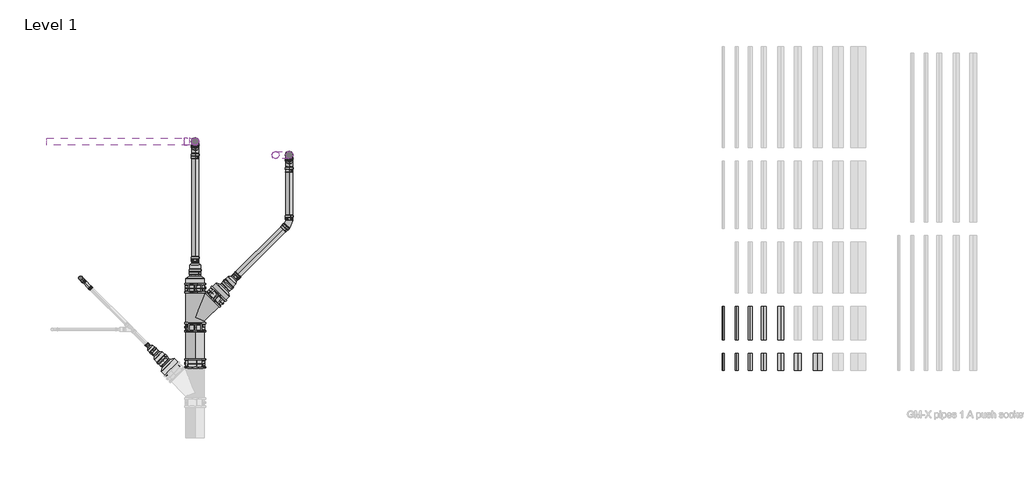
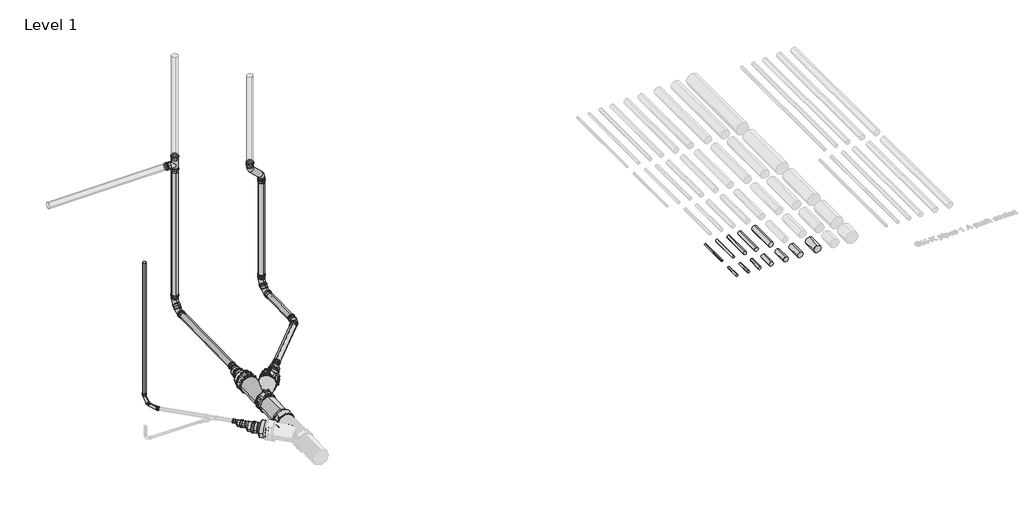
# One storey, part 3 of 8: 52 pipe fittings, 22 pipe segments, 1 valve.
"""IFC4 building model written with IfcOpenShell, lengths in millimetres."""

from ifc_helpers import new_model, si_unit, point, frame, frame_2d, origin, place, context, project, spatial, circle_curve, trimmed, segment, composite_curve, outline, extrude, transform, mapped, element, save
from ifc_brep_helpers import plane_surface, cylinder_surface, advanced_brep
from components import std_19c47b64, std_727ca654, std_c7778bcf, std_14a86d40, std_512bb775, std_f0aeaa4e, std_dbb25919, std_nested_5e4445c4, std_nested_c9cabba8, std_nested_afca93a4, std_nested_2a42391e, std_nested_e5a5243e, std_nested_04e2da1f, std_nested_37ce9ab0, std_nested_de9f702d, std_nested_f38542de, std_nested_473bf3f7, std_nested_352c3d66, std_nested_72f87268, std_nested_de9a7761, std_nested_30a605e0, std_nested_28663e90, std_nested_596bb4c3, std_nested_6f421a5c, dn100_200mm_57fa8b53

model = new_model("IFC4")

# Units and contexts
model_context = context("Model", 3, world=origin())
ifc_project = project(units=[si_unit("LENGTHUNIT", "METRE", prefix="MILLI")], contexts=[model_context])

# Site, building, storey
site = spatial("IfcSite", under=ifc_project)
building = spatial("IfcBuilding", under=site)
storey = spatial("IfcBuildingStorey", under=building, Name="Level 1", Elevation=0.0)

# Pipe fittings
placement = place(None, origin())
std_shape = std_19c47b64(model_context)
element("IfcPipeFitting", 1, ObjectType="PIF_ST_UN_GM-X pipe bend_ACO : std", at=placement, inside=storey, context=model_context, shape_type="MappedRepresentation", body=[
    mapped(std_shape, transform((-5925.6297256, 2178.9495688, 83.5890911), x_axis=(0.7070272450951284, 0.7070272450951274, 0.014998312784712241), y_axis=(-0.7071590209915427, 0.7070272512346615, 0.0062116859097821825), z_axis=(-0.0062123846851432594, -0.01499802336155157, 0.9998682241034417))),
])
std_2_shape = std_727ca654(model_context)
element("IfcPipeFitting", 2, ObjectType="PIF_ST_UN_GM-X double bend_ACO : std", at=placement, inside=storey, context=model_context, shape_type="MappedRepresentation", body=[
    mapped(std_2_shape, transform((-5925.6297256, 3191.3647467, 98.7753188), x_axis=(0.0, 0.0, -1.0), y_axis=(0.0, -1.0, 0.0), z_axis=(-1.0, 0.0, 0.0))),
])
std_3_shape = std_c7778bcf(model_context)
element("IfcPipeFitting", 3, ObjectType="PIF_ST_UN_GM-X double bend_ACO : std", at=placement, inside=storey, context=model_context, shape_type="MappedRepresentation", body=[
    mapped(std_3_shape, transform((-7316.9867536, 3391.3860267, 93.1308537), x_axis=(2.983006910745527e-06, -1.434333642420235e-07, -0.9999999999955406), y_axis=(-4.4745531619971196e-08, -0.9999999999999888, 1.434332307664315e-07), z_axis=(-0.9999999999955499, 4.4745103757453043e-08, -2.9830069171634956e-06))),
])
std_4_shape = std_14a86d40(model_context)
element("IfcPipeFitting", 4, ObjectType="PIF_ST_UN_GM-X double bend_ACO : std", at=placement, inside=storey, context=model_context, shape_type="MappedRepresentation", body=[
    mapped(std_4_shape, transform((-9014.1047845, 1368.6905966, 97.4803435), x_axis=(0.0, 1.0220318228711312e-05, -0.9999999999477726), y_axis=(0.7071067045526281, -0.7071068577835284, -7.2268571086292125e-06), z_axis=(-0.7071068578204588, -0.7071067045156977, -7.226855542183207e-06))),
])
std_5_shape = std_512bb775(model_context)
element("IfcPipeFitting", 5, ObjectType="PIF_ST_UN_GM-X multibranch_ACO : std", at=placement, inside=storey, context=model_context, shape_type="MappedRepresentation", body=[
    mapped(std_5_shape, transform((-7317.0023568, 3391.3677712, 2737.4997144), x_axis=(-2.983006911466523e-06, 1.4343336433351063e-07, 0.9999999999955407), y_axis=(-0.999999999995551, 0.0, -2.9830069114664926e-06), z_axis=(0.0, -0.9999999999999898, 1.434333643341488e-07))),
])
std_6_shape = std_f0aeaa4e(model_context)
element("IfcPipeFitting", 6, ObjectType="PIF_ST_UN_GM-X multireducer_ACO : std", at=placement, inside=storey, context=model_context, shape_type="MappedRepresentation", body=[
    mapped(std_6_shape, transform((-7316.8097007, 1420.948784, 35.071639), x_axis=(0.0, 0.9998875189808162, 0.014998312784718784), y_axis=(0.9999807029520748, -9.31752886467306e-05, 0.006211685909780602), z_axis=(0.006212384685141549, 0.014998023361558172, -0.9998682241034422))),
])
std_7_shape = std_dbb25919(model_context)
element("IfcPipeFitting", 7, ObjectType="PIF_ST_UN_GM-X multibranch_ACO : std", at=placement, inside=storey, context=model_context, shape_type="MappedRepresentation", body=[
    mapped(std_7_shape, transform((-7316.8097007, 788.0199845, 25.577707), x_axis=(0.0, 0.9998875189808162, 0.014998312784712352), y_axis=(0.999980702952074, -9.317528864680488e-05, 0.006211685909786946), z_axis=(0.006212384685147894, 0.014998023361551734, -0.9998682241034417))),
])
std_nested_shape = std_nested_5e4445c4(model_context)
element("IfcPipeFitting", 8, ObjectType="ZZZ_do not use_PIF_ST_UN_GM-X single branch_ACO : std (nested)", at=placement, inside=storey, context=model_context, shape_type="MappedRepresentation", body=[
    mapped(std_nested_shape, transform((-7317.0023568, 3391.3677712, 2737.4997144), x_axis=(-2.983006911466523e-06, 1.4343336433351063e-07, 0.9999999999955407), y_axis=(-0.999999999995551, 0.0, -2.9830069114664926e-06), z_axis=(0.0, -0.9999999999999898, 1.434333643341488e-07))),
])
std_nested_2_shape = std_nested_c9cabba8(model_context)
element("IfcPipeFitting", 9, ObjectType="ZZZ_do not use_PIF_ST_UN_GM-X transition element_ACO : std (nested)", at=placement, inside=storey, context=model_context, shape_type="MappedRepresentation", body=[
    mapped(std_nested_2_shape, transform((-7316.8097007, 1323.9596946, 33.6168027), x_axis=(0.0, 0.9998875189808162, 0.014998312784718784), y_axis=(0.9999807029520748, -9.31752886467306e-05, 0.006211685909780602), z_axis=(0.006212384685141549, 0.014998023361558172, -0.9998682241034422))),
])
element("IfcPipeFitting", 10, ObjectType="ZZZ_do not use_PIF_ST_UN_GM-X transition element_ACO : std (nested)", at=placement, inside=storey, context=model_context, shape_type="MappedRepresentation", body=[
    mapped(std_nested_2_shape, transform((-6937.8430973, 1166.9865878, 33.6168027), x_axis=(0.7070272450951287, 0.7070272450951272, 0.014998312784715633), y_axis=(0.7071590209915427, -0.7070272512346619, -0.006211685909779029), z_axis=(0.0062123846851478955, 0.014998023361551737, -0.9998682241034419))),
])
std_nested_3_shape = std_nested_afca93a4(model_context)
element("IfcPipeFitting", 11, ObjectType="ZZZ_do not use_PIF_ST_UN_GM-X transition element_ACO : std (nested)", at=placement, inside=storey, context=model_context, shape_type="MappedRepresentation", body=[
    mapped(std_nested_3_shape, transform((-7316.8097007, 1520.9375359, 36.5714703), x_axis=(0.0, 0.9998875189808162, 0.014998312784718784), y_axis=(0.9999807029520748, -9.31752886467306e-05, 0.006211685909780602), z_axis=(0.006212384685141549, 0.014998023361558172, -0.9998682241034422))),
])
element("IfcPipeFitting", 12, ObjectType="ZZZ_do not use_PIF_ST_UN_GM-X transition element_ACO : std (nested)", at=placement, inside=storey, context=model_context, shape_type="MappedRepresentation", body=[
    mapped(std_nested_3_shape, transform((-6798.55873, 1306.2709551, 36.5714703), x_axis=(0.7070272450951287, 0.7070272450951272, 0.014998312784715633), y_axis=(0.7071590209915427, -0.7070272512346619, -0.006211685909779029), z_axis=(0.0062123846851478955, 0.014998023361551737, -0.9998682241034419))),
])
std_nested_4_shape = std_nested_2a42391e(model_context)
element("IfcPipeFitting", 13, ObjectType="ZZZ_do not use_PIF_ST_UN_GM-X pipe bend_ACO : std (nested)", at=placement, inside=storey, context=model_context, shape_type="MappedRepresentation", body=[
    mapped(std_nested_4_shape, transform((-5925.6297256, 3191.3647467, 223.7069309), x_axis=(0.0, 0.0, -1.0), y_axis=(0.0, -1.0, 0.0), z_axis=(-1.0, 0.0, 0.0))),
])
std_nested_5_shape = std_nested_e5a5243e(model_context)
element("IfcPipeFitting", 14, ObjectType="ZZZ_do not use_PIF_ST_UN_GM-X pipe bend_ACO : std (nested)", at=placement, inside=storey, context=model_context, shape_type="MappedRepresentation", body=[
    mapped(std_nested_5_shape, transform((-5925.6297256, 3066.447187, 96.9015554), x_axis=(0.0, -0.7017840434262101, -0.7123897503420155), y_axis=(0.0, -0.7123897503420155, 0.7017840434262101), z_axis=(-1.0, 0.0, 0.0))),
])
std_nested_6_shape = std_nested_04e2da1f(model_context)
element("IfcPipeFitting", 15, ObjectType="ZZZ_do not use_PIF_ST_UN_GM-X pipe bend_ACO : std (nested)", at=placement, inside=storey, context=model_context, shape_type="MappedRepresentation", body=[
    mapped(std_nested_6_shape, transform((-7316.9871263, 3391.3860447, 218.0624571), x_axis=(2.983006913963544e-06, -1.4343336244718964e-07, -0.9999999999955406), y_axis=(-4.474553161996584e-08, -0.9999999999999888, 1.434332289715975e-07), z_axis=(-0.9999999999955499, 4.474510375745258e-08, -2.9830069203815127e-06))),
])
std_nested_7_shape = std_nested_37ce9ab0(model_context)
element("IfcPipeFitting", 16, ObjectType="ZZZ_do not use_PIF_ST_UN_GM-X pipe bend_ACO : std (nested)", at=placement, inside=storey, context=model_context, shape_type="MappedRepresentation", body=[
    mapped(std_nested_7_shape, transform((-7316.9867536, 3266.4684758, 91.2570905), x_axis=(2.093662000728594e-06, -0.7017840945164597, -0.7123897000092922), y_axis=(-2.125302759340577e-06, -0.7123897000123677, 0.7017840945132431), z_axis=(-0.9999999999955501, 4.4745103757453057e-08, -2.9830069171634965e-06))),
])
std_nested_8_shape = std_nested_de9f702d(model_context)
element("IfcPipeFitting", 17, ObjectType="ZZZ_do not use_PIF_ST_UN_GM-X pipe bend_ACO : std (nested)", at=placement, inside=storey, context=model_context, shape_type="MappedRepresentation", body=[
    mapped(std_nested_8_shape, transform((-9014.1047845, 1368.6893054, 223.8161313), x_axis=(0.0, 1.0220318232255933e-05, -0.9999999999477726), y_axis=(0.7071067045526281, -0.7071068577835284, -7.2268571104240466e-06), z_axis=(-0.7071068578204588, -0.7071067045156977, -7.2268555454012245e-06))),
])
std_nested_9_shape = std_nested_f38542de(model_context)
element("IfcPipeFitting", 18, ObjectType="ZZZ_do not use_PIF_ST_UN_GM-X pipe bend_ACO : std (nested)", at=placement, inside=storey, context=model_context, shape_type="MappedRepresentation", body=[
    mapped(std_nested_9_shape, transform((-8924.7819405, 1279.3677525, 95.5855198), x_axis=(0.4962380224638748, -0.4962308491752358, -0.7123922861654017), y_axis=(0.5037337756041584, -0.5037410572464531, 0.701781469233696), z_axis=(-0.7071068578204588, -0.7071067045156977, -7.226855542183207e-06))),
])
std_nested_10_shape = std_nested_473bf3f7(model_context)
element("IfcPipeFitting", 19, ObjectType="ZZZ_do not use_PIF_ST_UN_GM-X seal non transitional_ACO : std (nested)", at=placement, inside=storey, context=model_context, shape_type="MappedRepresentation", body=[
    mapped(std_nested_10_shape, transform((-5925.6297256, 3191.3647467, 347.7069309), x_axis=(0.0, 0.0, 1.0), y_axis=(0.0, 1.0, 0.0), z_axis=(-1.0, 0.0, 0.0))),
])
element("IfcPipeFitting", 20, ObjectType="ZZZ_do not use_PIF_ST_UN_GM-X seal non transitional_ACO : std (nested)", at=placement, inside=storey, context=model_context, shape_type="MappedRepresentation", body=[
    mapped(std_nested_10_shape, transform((-5925.6297256, 3153.4684084, 185.2378844), x_axis=(0.0, 0.7017840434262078, 0.7123897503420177), y_axis=(0.0, 0.7123897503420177, -0.7017840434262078), z_axis=(-1.0, 0.0, 0.0))),
])
element("IfcPipeFitting", 21, ObjectType="ZZZ_do not use_PIF_ST_UN_GM-X seal non transitional_ACO : std (nested)", at=placement, inside=storey, context=model_context, shape_type="MappedRepresentation", body=[
    mapped(std_nested_10_shape, transform((-7477.0023568, 3391.3677712, 2737.4997144), x_axis=(-1.0000000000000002, 0.0, 0.0), y_axis=(0.0, -1.4343336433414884e-07, -0.9999999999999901), z_axis=(0.0, -0.99999999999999, 1.4343336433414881e-07))),
])
element("IfcPipeFitting", 22, ObjectType="ZZZ_do not use_PIF_ST_UN_GM-X seal non transitional_ACO : std (nested)", at=placement, inside=storey, context=model_context, shape_type="MappedRepresentation", body=[
    mapped(std_nested_10_shape, transform((-7317.0028341, 3391.3677941, 2897.4997144), x_axis=(-2.983006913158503e-06, 1.4343336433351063e-07, 0.9999999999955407), y_axis=(-0.999999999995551, 0.0, -2.9830069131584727e-06), z_axis=(0.0, -0.9999999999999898, 1.434333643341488e-07))),
])
element("IfcPipeFitting", 23, ObjectType="ZZZ_do not use_PIF_ST_UN_GM-X seal non transitional_ACO : std (nested)", at=placement, inside=storey, context=model_context, shape_type="MappedRepresentation", body=[
    mapped(std_nested_10_shape, transform((-6125.6297256, 3191.3647467, 2481.5163684), x_axis=(0.0, 0.0, 1.0), y_axis=(-1.0000000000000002, 0.0, 0.0), z_axis=(0.0, -1.0000000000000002, 0.0))),
])
element("IfcPipeFitting", 24, ObjectType="ZZZ_do not use_PIF_ST_UN_GM-X seal non transitional_ACO : std (nested)", at=placement, inside=storey, context=model_context, shape_type="MappedRepresentation", body=[
    mapped(std_nested_10_shape, transform((-6680.662233, 1423.9170614, 67.5724329), x_axis=(0.7070272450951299, 0.7070272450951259, 0.014998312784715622), y_axis=(0.7071590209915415, -0.7070272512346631, -0.00621168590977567), z_axis=(0.0062123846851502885, 0.014998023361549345, -0.9998682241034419))),
])
element("IfcPipeFitting", 25, ObjectType="ZZZ_do not use_PIF_ST_UN_GM-X seal non transitional_ACO : std (nested)", at=placement, inside=storey, context=model_context, shape_type="MappedRepresentation", body=[
    mapped(std_nested_10_shape, transform((-7952.9571683, 307.7538385, 50.8299846), x_axis=(-0.7070272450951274, 0.7070272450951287, 0.014998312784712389), y_axis=(-0.7071590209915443, -0.7070272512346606, -0.006211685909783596), z_axis=(0.0062123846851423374, -0.014998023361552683, 0.9998682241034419))),
])
element("IfcPipeFitting", 26, ObjectType="ZZZ_do not use_PIF_ST_UN_GM-X seal non transitional_ACO : std (nested)", at=placement, inside=storey, context=model_context, shape_type="MappedRepresentation", body=[
    mapped(std_nested_10_shape, transform((-7316.9867536, 1687.4913079, 67.5724329), x_axis=(0.0, 0.9998875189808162, 0.014998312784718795), y_axis=(0.9999807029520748, -9.317528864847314e-05, 0.006211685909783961), z_axis=(0.006212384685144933, 0.014998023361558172, -0.9998682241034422))),
])
element("IfcPipeFitting", 27, ObjectType="ZZZ_do not use_PIF_ST_UN_GM-X seal non transitional_ACO : std (nested)", at=placement, inside=storey, context=model_context, shape_type="MappedRepresentation", body=[
    mapped(std_nested_10_shape, transform((-7316.9874962, 3391.3860624, 342.0624571), x_axis=(-2.983006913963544e-06, 1.4343335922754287e-07, 0.9999999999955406), y_axis=(4.474553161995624e-08, 0.9999999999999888, -1.4343322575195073e-07), z_axis=(-0.9999999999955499, 4.474510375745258e-08, -2.9830069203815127e-06))),
])
element("IfcPipeFitting", 28, ObjectType="ZZZ_do not use_PIF_ST_UN_GM-X seal non transitional_ACO : std (nested)", at=placement, inside=storey, context=model_context, shape_type="MappedRepresentation", body=[
    mapped(std_nested_10_shape, transform((-7316.9870132, 3353.4897036, 179.5934133), x_axis=(-2.093662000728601e-06, 0.7017840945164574, 0.7123897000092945), y_axis=(2.12530275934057e-06, 0.7123897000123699, -0.7017840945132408), z_axis=(-0.9999999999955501, 4.4745103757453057e-08, -2.9830069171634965e-06))),
])
element("IfcPipeFitting", 29, ObjectType="ZZZ_do not use_PIF_ST_UN_GM-X seal non transitional_ACO : std (nested)", at=placement, inside=storey, context=model_context, shape_type="MappedRepresentation", body=[
    mapped(std_nested_10_shape, transform((-5925.6297256, 2302.9356211, 85.4488819), x_axis=(0.0, 0.9998875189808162, 0.014998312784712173), y_axis=(-0.999980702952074, 9.317528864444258e-05, -0.006211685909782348), z_axis=(-0.0062123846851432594, -0.01499802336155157, 0.9998682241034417))),
])
element("IfcPipeFitting", 30, ObjectType="ZZZ_do not use_PIF_ST_UN_GM-X seal non transitional_ACO : std (nested)", at=placement, inside=storey, context=model_context, shape_type="MappedRepresentation", body=[
    mapped(std_nested_10_shape, transform((-5963.8091969, 2140.7700976, 82.7791822), x_axis=(0.7070272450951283, 0.7070272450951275, 0.014998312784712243), y_axis=(-0.7071590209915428, 0.7070272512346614, 0.006211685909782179), z_axis=(-0.0062123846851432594, -0.01499802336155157, 0.9998682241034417))),
])
element("IfcPipeFitting", 31, ObjectType="ZZZ_do not use_PIF_ST_UN_GM-X seal non transitional_ACO : std (nested)", at=placement, inside=storey, context=model_context, shape_type="MappedRepresentation", body=[
    mapped(std_nested_10_shape, transform((-5925.6297256, 3012.453261, 96.0916465), x_axis=(0.0, 0.9998875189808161, 0.01499831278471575), y_axis=(0.0, 0.01499831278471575, -0.9998875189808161), z_axis=(-1.0, 0.0, 0.0))),
])
element("IfcPipeFitting", 32, ObjectType="ZZZ_do not use_PIF_ST_UN_GM-X seal non transitional_ACO : std (nested)", at=placement, inside=storey, context=model_context, shape_type="MappedRepresentation", body=[
    mapped(std_nested_10_shape, transform((-7316.9867536, 3212.4745498, 90.4471816), x_axis=(0.0, 0.9998875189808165, 0.014998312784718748), y_axis=(2.98334248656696e-06, 0.014998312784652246, -0.9998875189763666), z_axis=(-0.9999999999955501, 4.4745103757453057e-08, -2.9830069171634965e-06))),
])
element("IfcPipeFitting", 33, ObjectType="ZZZ_do not use_PIF_ST_UN_GM-X seal non transitional_ACO : std (nested)", at=placement, inside=storey, context=model_context, shape_type="MappedRepresentation", body=[
    mapped(std_nested_10_shape, transform((-7317.002148, 3391.3677611, 2667.4997144), x_axis=(-2.983006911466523e-06, 1.4343336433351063e-07, 0.9999999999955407), y_axis=(0.999999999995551, 0.0, 2.9830069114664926e-06), z_axis=(0.0, 0.9999999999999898, -1.434333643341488e-07))),
])
element("IfcPipeFitting", 34, ObjectType="ZZZ_do not use_PIF_ST_UN_GM-X seal non transitional_ACO : std (nested)", at=placement, inside=storey, context=model_context, shape_type="MappedRepresentation", body=[
    mapped(std_nested_10_shape, transform((-5925.6297256, 3191.3647467, 2111.5163684), x_axis=(0.0, 0.0, 1.0), y_axis=(-1.0000000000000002, 0.0, 0.0), z_axis=(0.0, -1.0000000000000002, 0.0))),
])
std_nested_11_shape = std_nested_352c3d66(model_context)
element("IfcPipeFitting", 35, ObjectType="ZZZ_do not use_PIF_ST_UN_GM-X seal non transitional_ACO : std (nested)", at=placement, inside=storey, context=model_context, shape_type="MappedRepresentation", body=[
    mapped(std_nested_11_shape, transform((-9014.1047845, 1368.6881403, 337.8161313), x_axis=(0.0, -1.0220318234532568e-05, 0.9999999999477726), y_axis=(-0.7071067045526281, 0.7071068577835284, 7.226857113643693e-06), z_axis=(-0.7071068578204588, -0.7071067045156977, -7.2268555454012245e-06))),
])
element("IfcPipeFitting", 36, ObjectType="ZZZ_do not use_PIF_ST_UN_GM-X seal non transitional_ACO : std (nested)", at=placement, inside=storey, context=model_context, shape_type="MappedRepresentation", body=[
    mapped(std_nested_11_shape, transform((-8981.3530751, 1335.9380693, 176.7982404), x_axis=(-0.49623802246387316, 0.4962308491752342, 0.712392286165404), y_axis=(-0.50373377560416, 0.5037410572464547, -0.7017814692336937), z_axis=(-0.7071068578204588, -0.7071067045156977, -7.226855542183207e-06))),
])
element("IfcPipeFitting", 37, ObjectType="ZZZ_do not use_PIF_ST_UN_GM-X seal non transitional_ACO : std (nested)", at=placement, inside=storey, context=model_context, shape_type="MappedRepresentation", body=[
    mapped(std_nested_11_shape, transform((-8878.1181423, 1232.7039543, 94.5956312), x_axis=(-0.7070272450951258, 0.70702724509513, 0.014998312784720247), y_axis=(-0.010600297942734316, 0.010610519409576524, -0.9998875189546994), z_axis=(-0.7071068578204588, -0.7071067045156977, -7.226855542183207e-06))),
])
std_nested_12_shape = std_nested_72f87268(model_context)
element("IfcPipeFitting", 38, ObjectType="ZZZ_do not use_PIF_ST_UN_GM-X seal non transitional_ACO : std (nested)", at=placement, inside=storey, context=model_context, shape_type="MappedRepresentation", body=[
    mapped(std_nested_12_shape, transform((-6810.5781932, 1294.251492, 36.316499), x_axis=(0.7070272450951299, 0.7070272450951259, 0.014998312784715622), y_axis=(0.7071590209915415, -0.7070272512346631, -0.006211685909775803), z_axis=(0.006212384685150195, 0.014998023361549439, -0.9998682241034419))),
])
element("IfcPipeFitting", 39, ObjectType="ZZZ_do not use_PIF_ST_UN_GM-X seal non transitional_ACO : std (nested)", at=placement, inside=storey, context=model_context, shape_type="MappedRepresentation", body=[
    mapped(std_nested_12_shape, transform((-7823.0412081, 178.0882691, 19.5740506), x_axis=(-0.7070272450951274, 0.7070272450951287, 0.014998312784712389), y_axis=(-0.7071590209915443, -0.7070272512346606, -0.006211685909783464), z_axis=(0.006212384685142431, -0.01499802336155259, 0.9998682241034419))),
])
element("IfcPipeFitting", 40, ObjectType="ZZZ_do not use_PIF_ST_UN_GM-X seal non transitional_ACO : std (nested)", at=placement, inside=storey, context=model_context, shape_type="MappedRepresentation", body=[
    mapped(std_nested_12_shape, transform((-7316.8097007, 1503.9394481, 36.316499), x_axis=(0.0, 0.9998875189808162, 0.014998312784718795), y_axis=(0.9999807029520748, -9.317528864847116e-05, 0.006211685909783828), z_axis=(0.006212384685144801, 0.014998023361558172, -0.9998682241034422))),
])
std_nested_13_shape = std_nested_de9a7761(model_context)
element("IfcPipeFitting", 41, ObjectType="ZZZ_do not use_PIF_ST_UN_GM-X single branch socket free_ACO : std (nested)", at=placement, inside=storey, context=model_context, shape_type="MappedRepresentation", body=[
    mapped(std_nested_13_shape, transform((-7316.8097007, 788.0199845, 25.577707), x_axis=(0.0, 0.9998875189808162, 0.014998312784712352), y_axis=(0.999980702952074, -9.317528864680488e-05, 0.006211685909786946), z_axis=(0.006212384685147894, 0.014998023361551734, -0.9998682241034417))),
])
element("IfcPipeFitting", 42, ObjectType="ZZZ_do not use_PIF_ST_UN_GM-X transition element_ACO : std (nested)", at=placement, inside=storey, context=model_context, shape_type="MappedRepresentation", body=[
    mapped(std_nested_2_shape, transform((-7695.776304, 50.8233649, 16.8743543), x_axis=(-0.7070272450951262, 0.7070272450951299, 0.014998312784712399), y_axis=(-0.7071590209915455, -0.7070272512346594, -0.006211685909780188), z_axis=(0.0062123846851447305, -0.01499802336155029, 0.9998682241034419))),
])
std_nested_14_shape = std_nested_30a605e0(model_context)
element("IfcPipeFitting", 43, ObjectType="ZZZ_do not use_PIF_ST_UN_GM-X transition element_ACO : std (nested)", at=placement, inside=storey, context=model_context, shape_type="MappedRepresentation", body=[
    mapped(std_nested_14_shape, transform((-7835.0606713, 190.1077322, 19.829022), x_axis=(-0.7070272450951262, 0.7070272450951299, 0.014998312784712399), y_axis=(-0.7071590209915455, -0.7070272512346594, -0.006211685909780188), z_axis=(0.0062123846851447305, -0.01499802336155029, 0.9998682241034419))),
])
std_nested_15_shape = std_nested_28663e90(model_context)
element("IfcPipeFitting", 44, ObjectType="ZZZ_do not use_PIF_ST_UN_GM-X transition element_ACO : std (nested)", at=placement, inside=storey, context=model_context, shape_type="MappedRepresentation", body=[
    mapped(std_nested_15_shape, transform((-7958.9668999, 313.7635701, 50.9574702), x_axis=(-0.7070272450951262, 0.7070272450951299, 0.014998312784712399), y_axis=(-0.7071590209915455, -0.7070272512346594, -0.006211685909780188), z_axis=(0.0062123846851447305, -0.01499802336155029, 0.9998682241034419))),
])
std_nested_16_shape = std_nested_596bb4c3(model_context)
element("IfcPipeFitting", 45, ObjectType="ZZZ_do not use_PIF_ST_UN_GM-X rapid clamp_ACO : std (nested)", at=placement, inside=storey, context=model_context, shape_type="MappedRepresentation", body=[
    mapped(std_nested_16_shape, transform((-7316.8097007, 640.0366317, 23.3579567), x_axis=(0.0, -0.9998875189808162, -0.014998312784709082), y_axis=(-0.006212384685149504, -0.014998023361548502, 0.9998682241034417), z_axis=(-0.999980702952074, 9.317528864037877e-05, -0.006211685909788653))),
])
element("IfcPipeFitting", 46, ObjectType="ZZZ_do not use_PIF_ST_UN_GM-X rapid clamp_ACO : std (nested)", at=placement, inside=storey, context=model_context, shape_type="MappedRepresentation", body=[
    mapped(std_nested_16_shape, transform((-7316.8097007, 1220.9712802, 32.0719765), x_axis=(0.0, 0.9998875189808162, 0.014998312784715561), y_axis=(-0.006212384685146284, -0.014998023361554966, 0.9998682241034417), z_axis=(0.999980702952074, -9.317528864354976e-05, 0.006211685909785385))),
])
element("IfcPipeFitting", 47, ObjectType="ZZZ_do not use_PIF_ST_UN_GM-X rapid clamp_ACO : std (nested)", at=placement, inside=storey, context=model_context, shape_type="MappedRepresentation", body=[
    mapped(std_nested_16_shape, transform((-7316.8097007, 104.8080573, 15.3295281), x_axis=(0.0, 0.9998875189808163, 0.014998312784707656), y_axis=(-0.006212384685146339, 0.014998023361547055, -0.9998682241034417), z_axis=(-0.9999807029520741, -9.31752886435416e-05, 0.006211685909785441))),
])
element("IfcPipeFitting", 48, ObjectType="ZZZ_do not use_PIF_ST_UN_GM-X rapid clamp_ACO : std (nested)", at=placement, inside=storey, context=model_context, shape_type="MappedRepresentation", body=[
    mapped(std_nested_16_shape, transform((-7010.6669035, 1094.1627816, 32.0719765), x_axis=(0.7070272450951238, 0.707027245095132, 0.014998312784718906), y_axis=(-0.00621238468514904, -0.014998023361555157, 0.9998682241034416), z_axis=(0.7071590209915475, -0.7070272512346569, -0.0062116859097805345))),
])
std_nested_17_shape = std_nested_6f421a5c(model_context)
element("IfcPipeFitting", 49, ObjectType="ZZZ_do not use_PIF_ST_UN_GM-X universal claw_ACO : std (nested)", at=placement, inside=storey, context=model_context, shape_type="MappedRepresentation", body=[
    mapped(std_nested_17_shape, transform((-7316.8097007, 640.0366317, 23.3579567), x_axis=(0.0, -0.9998875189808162, -0.014998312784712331), y_axis=(0.999980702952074, -9.317528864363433e-05, 0.006211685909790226), z_axis=(-0.006212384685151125, -0.014998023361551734, 0.9998682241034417))),
])
element("IfcPipeFitting", 50, ObjectType="ZZZ_do not use_PIF_ST_UN_GM-X universal claw_ACO : std (nested)", at=placement, inside=storey, context=model_context, shape_type="MappedRepresentation", body=[
    mapped(std_nested_17_shape, transform((-7316.8097007, 1220.9712802, 32.0719765), x_axis=(0.0, 0.9998875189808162, 0.014998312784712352), y_axis=(-0.999980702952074, 9.31752886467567e-05, -0.006211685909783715), z_axis=(-0.006212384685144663, -0.014998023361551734, 0.9998682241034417))),
])
element("IfcPipeFitting", 51, ObjectType="ZZZ_do not use_PIF_ST_UN_GM-X universal claw_ACO : std (nested)", at=placement, inside=storey, context=model_context, shape_type="MappedRepresentation", body=[
    mapped(std_nested_17_shape, transform((-7316.8097007, 104.8080573, 15.3295281), x_axis=(0.0, 0.9998875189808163, 0.014998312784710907), y_axis=(0.9999807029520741, 9.317528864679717e-05, -0.006211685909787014), z_axis=(-0.00621238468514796, 0.014998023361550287, -0.9998682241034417))),
])
element("IfcPipeFitting", 52, ObjectType="ZZZ_do not use_PIF_ST_UN_GM-X universal claw_ACO : std (nested)", at=placement, inside=storey, context=model_context, shape_type="MappedRepresentation", body=[
    mapped(std_nested_17_shape, transform((-7010.6669035, 1094.1627816, 32.0719765), x_axis=(0.7070272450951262, 0.7070272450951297, 0.014998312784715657), y_axis=(-0.7071590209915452, 0.7070272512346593, 0.006211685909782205), z_axis=(-0.006212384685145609, -0.014998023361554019, 0.9998682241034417))),
])

# Pipe segments
element("IfcPipeSegment", 53, ObjectType="GM-X pipe complex", at=placement, inside=storey, context=model_context, shape_type="SweptSolid", body=[
    extrude(outline(composite_curve([segment(trimmed(circle_curve(frame_2d((-6125.6297256, 3191.3647467)), 51.5), [point((-6177.1297256, 3191.3647467))], [point((-6125.6297256, 3242.8647467))], False, "CARTESIAN"), True, "CONTINUOUS"), segment(trimmed(circle_curve(frame_2d((-6125.6297256, 3191.3647467)), 51.5), [point((-6125.6297256, 3242.8647467))], [point((-6074.1297256, 3191.3647467))], False, "CARTESIAN"), True, "CONTINUOUS"), segment(trimmed(circle_curve(frame_2d((-6125.6297256, 3191.3647467)), 51.5), [point((-6074.1297256, 3191.3647467))], [point((-6125.6297256, 3139.8647467))], False, "CARTESIAN"), True, "CONTINUOUS"), segment(trimmed(circle_curve(frame_2d((-6125.6297256, 3191.3647467)), 51.5), [point((-6125.6297256, 3139.8647467))], [point((-6177.1297256, 3191.3647467))], False, "CARTESIAN"), True, "CONTINUOUS")], self_intersect=False)), frame((0.0, 0.0, 2411.5163684), z_axis=(0.0, 0.0, 1.0), x_axis=(1.0, 0.0, 0.0)), (0.0, 0.0, 1.0), 1647.2589504),
])
element("IfcPipeSegment", 54, ObjectType="GM-X pipe complex", at=placement, inside=storey, context=model_context, shape_type="SweptSolid", body=[
    extrude(outline(composite_curve([segment(trimmed(circle_curve(frame_2d((0.0, -51.5)), 51.5), [point((-51.5, -51.5))], [point((0.0, 0.0))], False, "CARTESIAN"), True, "CONTINUOUS"), segment(trimmed(circle_curve(frame_2d((0.0, -51.5)), 51.5), [point((0.0, 0.0))], [point((51.5, -51.5))], False, "CARTESIAN"), True, "CONTINUOUS"), segment(trimmed(circle_curve(frame_2d((0.0, -51.5)), 51.5), [point((51.5, -51.5))], [point((0.0, -102.9999999))], False, "CARTESIAN"), True, "CONTINUOUS"), segment(trimmed(circle_curve(frame_2d((0.0, -51.5)), 51.5), [point((0.0, -102.9999999))], [point((-51.5, -51.5))], False, "CARTESIAN"), True, "CONTINUOUS")], self_intersect=False)), frame((-5925.6297256, 2233.7159079, 32.9047928), z_axis=(0.0, 0.9998875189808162, 0.014998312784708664), x_axis=(1.0, 0.0, 0.0)), (0.0, 0.0, 1.0), 709.5974561),
])
element("IfcPipeSegment", 55, ObjectType="GM-X pipe complex", at=placement, inside=storey, context=model_context, shape_type="SweptSolid", body=[
    extrude(outline(composite_curve([segment(trimmed(circle_curve(frame_2d((0.0, -51.5)), 51.5), [point((-51.4942085, -50.7276737))], [point((0.7723263, -0.0057915))], False, "CARTESIAN"), True, "CONTINUOUS"), segment(trimmed(circle_curve(frame_2d((0.0, -51.5)), 51.5), [point((0.7723263, -0.0057915))], [point((51.4942085, -52.2723262))], False, "CARTESIAN"), True, "CONTINUOUS"), segment(trimmed(circle_curve(frame_2d((0.0, -51.5)), 51.5), [point((51.4942085, -52.2723262))], [point((-0.7723262, -102.9942086))], False, "CARTESIAN"), True, "CONTINUOUS"), segment(trimmed(circle_curve(frame_2d((0.0, -51.5)), 51.5), [point((-0.7723262, -102.9942086))], [point((-51.4942085, -50.7276737))], False, "CARTESIAN"), True, "CONTINUOUS")], self_intersect=False)), frame((-6730.1541402, 1375.5173885, 15.0341346), z_axis=(0.7070272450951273, 0.7070272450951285, 0.014998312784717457), x_axis=(0.7071863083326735, -0.7068682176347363, -0.014994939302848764)), (0.0, 0.0, 1.0), 1013.8973302),
])
element("IfcPipeSegment", 56, ObjectType="GM-X pipe complex", at=placement, inside=storey, context=model_context, shape_type="SweptSolid", body=[
    extrude(outline(composite_curve([segment(trimmed(circle_curve(frame_2d((0.0, -51.5)), 51.5), [point((-51.5, -51.5))], [point((0.0, 0.0))], False, "CARTESIAN"), True, "CONTINUOUS"), segment(trimmed(circle_curve(frame_2d((0.0, -51.5)), 51.5), [point((0.0, 0.0))], [point((51.5, -51.5))], False, "CARTESIAN"), True, "CONTINUOUS"), segment(trimmed(circle_curve(frame_2d((0.0, -51.5)), 51.5), [point((51.5, -51.5))], [point((0.0, -103.0))], False, "CARTESIAN"), True, "CONTINUOUS"), segment(trimmed(circle_curve(frame_2d((0.0, -51.5)), 51.5), [point((0.0, -103.0))], [point((-51.5, -51.5))], False, "CARTESIAN"), True, "CONTINUOUS")], self_intersect=False)), frame((-7316.9867536, 1618.2715947, 15.0283438), z_axis=(0.0, 0.9998875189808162, 0.014998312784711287), x_axis=(1.0, 0.0, 0.0)), (0.0, 0.0, 1.0), 1525.1547929),
])
element("IfcPipeSegment", 57, ObjectType="GM-X pipe complex", at=placement, inside=storey, context=model_context, shape_type="AdvancedBrep", body=[
    advanced_brep(
    [(-8987.6047862, 1368.6635565, 2743.1999976), (-9014.1047862, 1395.1635565, 2743.2002685), (-9040.6047862, 1368.6635565, 2743.1999976), (-9014.1047862, 1342.1635565, 2743.1997268), (-8987.6047845, 1368.6885286, 299.8161313), (-9014.1047845, 1342.1885286, 299.8158605), (-9040.6047845, 1368.6885286, 299.8161313), (-9014.1047845, 1395.1885286, 299.8164021)],
    [
        (0, 1, circle_curve(frame((-9014.1047862, 1368.6635565, 2743.1999976), z_axis=(0.0, -1.022031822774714e-05, 0.9999999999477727), x_axis=(1.0, 0.0, 0.0)), 26.5)),
        (1, 2, circle_curve(frame((-9014.1047862, 1368.6635565, 2743.1999976), z_axis=(0.0, -1.022031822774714e-05, 0.9999999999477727), x_axis=(1.0, 0.0, 0.0)), 26.5)),
        (2, 3, circle_curve(frame((-9014.1047862, 1368.6635565, 2743.1999976), z_axis=(0.0, -1.022031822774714e-05, 0.9999999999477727), x_axis=(1.0, 0.0, 0.0)), 26.5)),
        (3, 0, circle_curve(frame((-9014.1047862, 1368.6635565, 2743.1999976), z_axis=(0.0, -1.022031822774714e-05, 0.9999999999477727), x_axis=(1.0, 0.0, 0.0)), 26.5)),
        (4, 5, circle_curve(frame((-9014.1047862, 1368.6885286, 299.8161313), z_axis=(0.0, 1.022031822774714e-05, -0.9999999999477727), x_axis=(1.0, 0.0, 0.0)), 26.5000017)),
        (5, 6, circle_curve(frame((-9014.1047862, 1368.6885286, 299.8161313), z_axis=(0.0, 1.022031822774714e-05, -0.9999999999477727), x_axis=(1.0, 0.0, 0.0)), 26.5)),
        (6, 7, circle_curve(frame((-9014.1047862, 1368.6885286, 299.8161313), z_axis=(0.0, 1.022031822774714e-05, -0.9999999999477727), x_axis=(1.0, 0.0, 0.0)), 26.4999983)),
        (7, 4, circle_curve(frame((-9014.1047862, 1368.6885286, 299.8161313), z_axis=(0.0, 1.022031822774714e-05, -0.9999999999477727), x_axis=(1.0, 0.0, 0.0)), 26.5)),
        (0, 4),
        (7, 1),
        (6, 2),
        (5, 3),
    ],
    [
        plane_surface(frame((-9014.1047862, 1342.1635565, 2743.1997268), z_axis=(0.0, -1.0220318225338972e-05, 0.9999999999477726), x_axis=(-1.0, 0.0, 0.0))),
        plane_surface(frame((-9014.1047845, 1342.1885286, 299.8158605), z_axis=(0.0, 1.0220318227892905e-05, -0.9999999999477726), x_axis=(-1.0, 0.0, 0.0))),
        cylinder_surface(frame((-9014.1047862, 1368.6635565, 2743.1999976), z_axis=(0.0, -1.022031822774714e-05, 0.9999999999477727), x_axis=(1.0, 0.0, 0.0)), 26.5),
    ],
    [
        (0, [[1, 2, 3, 4]]),
        (1, [[5, 6, 7, 8]]),
        (2, [[-1, 9, -8, 10]]),
        (2, [[-2, -10, -7, 11]]),
        (2, [[-3, -11, -6, 12]]),
        (2, [[-4, -12, -5, -9]]),
    ],
),
])
element("IfcPipeSegment", 58, ObjectType="GM-X pipe complex", at=placement, inside=storey, context=model_context, shape_type="SweptSolid", body=[
    extrude(outline(composite_curve([segment(trimmed(circle_curve(frame_2d((0.0, -136.5000001)), 136.5), [point((-136.5, -136.5000001))], [point((0.0, 0.0))], False, "CARTESIAN"), True, "CONTINUOUS"), segment(trimmed(circle_curve(frame_2d((0.0, -136.5000001)), 136.5), [point((0.0, 0.0))], [point((136.5, -136.5000001))], False, "CARTESIAN"), True, "CONTINUOUS"), segment(trimmed(circle_curve(frame_2d((0.0, -136.5000001)), 136.5), [point((136.5, -136.5000001))], [point((0.0, -273.0))], False, "CARTESIAN"), True, "CONTINUOUS"), segment(trimmed(circle_curve(frame_2d((0.0, -136.5000001)), 136.5), [point((0.0, -273.0))], [point((-136.5, -136.5000001))], False, "CARTESIAN"), True, "CONTINUOUS")], self_intersect=False)), frame((-7316.8097007, 109.8549895, -121.1101233), z_axis=(0.0, 0.9998875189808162, 0.014998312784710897), x_axis=(1.0, 0.0, 0.0)), (0.0, 0.0, 1.0), 529.2887842),
])
element("IfcPipeSegment", 59, ObjectType="GM-X pipe complex", at=placement, inside=storey, context=model_context, shape_type="SweptSolid", body=[
    extrude(outline(composite_curve([segment(trimmed(circle_curve(frame_2d((3391.3677712, 2737.4997144)), 51.5), [point((3442.8677712, 2737.4997144))], [point((3391.3677712, 2685.9997144))], False, "CARTESIAN"), True, "CONTINUOUS"), segment(trimmed(circle_curve(frame_2d((3391.3677712, 2737.4997144)), 51.5), [point((3391.3677712, 2685.9997144))], [point((3339.8677712, 2737.4997144))], False, "CARTESIAN"), True, "CONTINUOUS"), segment(trimmed(circle_curve(frame_2d((3391.3677712, 2737.4997144)), 51.5), [point((3339.8677712, 2737.4997144))], [point((3391.3677712, 2788.9997144))], False, "CARTESIAN"), True, "CONTINUOUS"), segment(trimmed(circle_curve(frame_2d((3391.3677712, 2737.4997144)), 51.5), [point((3391.3677712, 2788.9997144))], [point((3442.8677712, 2737.4997144))], False, "CARTESIAN"), True, "CONTINUOUS")], self_intersect=False)), frame((-9517.0023564, 0.0, 0.0), z_axis=(1.0, 0.0, 0.0), x_axis=(0.0, 1.0, 0.0)), (0.0, 0.0, 1.0), 2109.9999996),
])
element("IfcPipeSegment", 60, ObjectType="GM-X pipe complex", at=placement, inside=storey, context=model_context, shape_type="SweptSolid", body=[
    extrude(outline(composite_curve([segment(trimmed(circle_curve(frame_2d((0.0, 51.5)), 51.5), [point((-51.5, 51.5))], [point((0.0, 103.0))], False, "CARTESIAN"), True, "CONTINUOUS"), segment(trimmed(circle_curve(frame_2d((0.0, 51.5)), 51.5), [point((0.0, 103.0))], [point((51.5, 51.5))], False, "CARTESIAN"), True, "CONTINUOUS"), segment(trimmed(circle_curve(frame_2d((0.0, 51.5)), 51.5), [point((51.5, 51.5))], [point((0.0, 0.0))], False, "CARTESIAN"), True, "CONTINUOUS"), segment(trimmed(circle_curve(frame_2d((0.0, 51.5)), 51.5), [point((0.0, 0.0))], [point((-51.5, 51.5))], False, "CARTESIAN"), True, "CONTINUOUS")], self_intersect=False)), frame((-7317.0026253, 3339.8677841, 2827.4997218), z_axis=(-2.9830069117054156e-06, 1.4343336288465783e-07, 0.9999999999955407), x_axis=(0.9999999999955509, 0.0, 2.9830069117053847e-06)), (0.0, 0.0, 1.0), 1897.1284431),
])
element("IfcPipeSegment", 61, ObjectType="GM-X pipe complex", at=placement, inside=storey, context=model_context, shape_type="SweptSolid", body=[
    extrude(outline(composite_curve([segment(trimmed(circle_curve(frame_2d((0.0, 51.5)), 51.5), [point((-51.5, 51.5))], [point((0.0, 103.0))], False, "CARTESIAN"), True, "CONTINUOUS"), segment(trimmed(circle_curve(frame_2d((0.0, 51.5)), 51.5), [point((0.0, 103.0))], [point((51.5, 51.5))], False, "CARTESIAN"), True, "CONTINUOUS"), segment(trimmed(circle_curve(frame_2d((0.0, 51.5)), 51.5), [point((51.5, 51.5))], [point((0.0, 0.0))], False, "CARTESIAN"), True, "CONTINUOUS"), segment(trimmed(circle_curve(frame_2d((0.0, 51.5)), 51.5), [point((0.0, 0.0))], [point((-51.5, 51.5))], False, "CARTESIAN"), True, "CONTINUOUS")], self_intersect=False)), frame((-7316.9872874, 3339.8860524, 272.0620517), z_axis=(-6.3006792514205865e-06, -7.870060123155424e-06, 0.9999999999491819), x_axis=(0.9999999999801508, -4.958700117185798e-11, 6.300679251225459e-06)), (0.0, 0.0, 1.0), 2325.4372574),
])
element("IfcPipeSegment", 62, ObjectType="GM-X pipe complex", at=placement, inside=storey, context=model_context, shape_type="SweptSolid", body=[
    extrude(outline(composite_curve([segment(trimmed(circle_curve(frame_2d((0.0, 500.0)), 16.0), [point((0.0, 516.0))], [point((16.0, 500.0))], False, "CARTESIAN"), True, "CONTINUOUS"), segment(trimmed(circle_curve(frame_2d((0.0, 500.0)), 16.0), [point((16.0, 500.0))], [point((0.0, 484.0))], False, "CARTESIAN"), True, "CONTINUOUS"), segment(trimmed(circle_curve(frame_2d((0.0, 500.0)), 16.0), [point((0.0, 484.0))], [point((-16.0, 500.0))], False, "CARTESIAN"), True, "CONTINUOUS"), segment(trimmed(circle_curve(frame_2d((0.0, 500.0)), 16.0), [point((-16.0, 500.0))], [point((0.0, 516.0))], False, "CARTESIAN"), True, "CONTINUOUS")], self_intersect=False)), frame((0.0, 0.0, 0.0), z_axis=(0.0, 1.0, 0.0), x_axis=(0.0, 0.0, 1.0)), (0.0, 0.0, 1.0), 250.0),
])
element("IfcPipeSegment", 63, ObjectType="GM-X pipe complex", at=placement, inside=storey, context=model_context, shape_type="SweptSolid", body=[
    extrude(outline(composite_curve([segment(trimmed(circle_curve(frame_2d((0.0, 700.0)), 21.5), [point((0.0, 721.5))], [point((21.5, 700.0))], False, "CARTESIAN"), True, "CONTINUOUS"), segment(trimmed(circle_curve(frame_2d((0.0, 700.0)), 21.5), [point((21.5, 700.0))], [point((0.0, 678.5))], False, "CARTESIAN"), True, "CONTINUOUS"), segment(trimmed(circle_curve(frame_2d((0.0, 700.0)), 21.5), [point((0.0, 678.5))], [point((-21.5, 700.0))], False, "CARTESIAN"), True, "CONTINUOUS"), segment(trimmed(circle_curve(frame_2d((0.0, 700.0)), 21.5), [point((-21.5, 700.0))], [point((0.0, 721.5))], False, "CARTESIAN"), True, "CONTINUOUS")], self_intersect=False)), frame((0.0, 0.0, 0.0), z_axis=(0.0, 1.0, 0.0), x_axis=(0.0, 0.0, 1.0)), (0.0, 0.0, 1.0), 250.0),
])
element("IfcPipeSegment", 64, ObjectType="GM-X pipe complex", at=placement, inside=storey, context=model_context, shape_type="SweptSolid", body=[
    extrude(outline(composite_curve([segment(trimmed(circle_curve(frame_2d((0.0, 900.0)), 26.5), [point((0.0, 926.5))], [point((26.5, 900.0))], False, "CARTESIAN"), True, "CONTINUOUS"), segment(trimmed(circle_curve(frame_2d((0.0, 900.0)), 26.5), [point((26.5, 900.0))], [point((0.0, 873.5))], False, "CARTESIAN"), True, "CONTINUOUS"), segment(trimmed(circle_curve(frame_2d((0.0, 900.0)), 26.5), [point((0.0, 873.5))], [point((-26.5, 900.0))], False, "CARTESIAN"), True, "CONTINUOUS"), segment(trimmed(circle_curve(frame_2d((0.0, 900.0)), 26.5), [point((-26.5, 900.0))], [point((0.0, 926.5))], False, "CARTESIAN"), True, "CONTINUOUS")], self_intersect=False)), frame((0.0, 0.0, 0.0), z_axis=(0.0, 1.0, 0.0), x_axis=(0.0, 0.0, 1.0)), (0.0, 0.0, 1.0), 250.0),
])
element("IfcPipeSegment", 65, ObjectType="GM-X pipe complex", at=placement, inside=storey, context=model_context, shape_type="SweptSolid", body=[
    extrude(outline(composite_curve([segment(trimmed(circle_curve(frame_2d((0.0, 1100.0)), 36.5), [point((0.0, 1136.5))], [point((36.5, 1100.0))], False, "CARTESIAN"), True, "CONTINUOUS"), segment(trimmed(circle_curve(frame_2d((0.0, 1100.0)), 36.5), [point((36.5, 1100.0))], [point((0.0, 1063.5))], False, "CARTESIAN"), True, "CONTINUOUS"), segment(trimmed(circle_curve(frame_2d((0.0, 1100.0)), 36.5), [point((0.0, 1063.5))], [point((-36.5, 1100.0))], False, "CARTESIAN"), True, "CONTINUOUS"), segment(trimmed(circle_curve(frame_2d((0.0, 1100.0)), 36.5), [point((-36.5, 1100.0))], [point((0.0, 1136.5))], False, "CARTESIAN"), True, "CONTINUOUS")], self_intersect=False)), frame((0.0, 0.0, 0.0), z_axis=(0.0, 1.0, 0.0), x_axis=(0.0, 0.0, 1.0)), (0.0, 0.0, 1.0), 250.0),
])
element("IfcPipeSegment", 66, ObjectType="GM-X pipe complex", at=placement, inside=storey, context=model_context, shape_type="SweptSolid", body=[
    extrude(outline(composite_curve([segment(trimmed(circle_curve(frame_2d((0.0, 1350.0)), 44.5), [point((0.0, 1394.5))], [point((44.5, 1350.0))], False, "CARTESIAN"), True, "CONTINUOUS"), segment(trimmed(circle_curve(frame_2d((0.0, 1350.0)), 44.5), [point((44.5, 1350.0))], [point((0.0, 1305.5))], False, "CARTESIAN"), True, "CONTINUOUS"), segment(trimmed(circle_curve(frame_2d((0.0, 1350.0)), 44.5), [point((0.0, 1305.5))], [point((-44.5, 1350.0))], False, "CARTESIAN"), True, "CONTINUOUS"), segment(trimmed(circle_curve(frame_2d((0.0, 1350.0)), 44.5), [point((-44.5, 1350.0))], [point((0.0, 1394.5))], False, "CARTESIAN"), True, "CONTINUOUS")], self_intersect=False)), frame((0.0, 0.0, 0.0), z_axis=(0.0, 1.0, 0.0), x_axis=(0.0, 0.0, 1.0)), (0.0, 0.0, 1.0), 250.0),
])
element("IfcPipeSegment", 67, ObjectType="GM-X pipe complex", at=placement, inside=storey, context=model_context, shape_type="SweptSolid", body=[
    extrude(outline(composite_curve([segment(trimmed(circle_curve(frame_2d((0.0, 1600.0)), 51.5), [point((0.0, 1651.5))], [point((51.5, 1600.0))], False, "CARTESIAN"), True, "CONTINUOUS"), segment(trimmed(circle_curve(frame_2d((0.0, 1600.0)), 51.5), [point((51.5, 1600.0))], [point((0.0, 1548.5))], False, "CARTESIAN"), True, "CONTINUOUS"), segment(trimmed(circle_curve(frame_2d((0.0, 1600.0)), 51.5), [point((0.0, 1548.5))], [point((-51.5, 1600.0))], False, "CARTESIAN"), True, "CONTINUOUS"), segment(trimmed(circle_curve(frame_2d((0.0, 1600.0)), 51.5), [point((-51.5, 1600.0))], [point((0.0, 1651.5))], False, "CARTESIAN"), True, "CONTINUOUS")], self_intersect=False)), frame((0.0, 0.0, 0.0), z_axis=(0.0, 1.0, 0.0), x_axis=(0.0, 0.0, 1.0)), (0.0, 0.0, 1.0), 250.0),
])
element("IfcPipeSegment", 68, ObjectType="GM-X pipe complex", at=placement, inside=storey, context=model_context, shape_type="SweptSolid", body=[
    extrude(outline(composite_curve([segment(trimmed(circle_curve(frame_2d((0.0, 1900.0)), 66.5), [point((0.0, 1966.5))], [point((66.5, 1900.0))], False, "CARTESIAN"), True, "CONTINUOUS"), segment(trimmed(circle_curve(frame_2d((0.0, 1900.0)), 66.5), [point((66.5, 1900.0))], [point((0.0, 1833.5))], False, "CARTESIAN"), True, "CONTINUOUS"), segment(trimmed(circle_curve(frame_2d((0.0, 1900.0)), 66.5), [point((0.0, 1833.5))], [point((-66.5, 1900.0))], False, "CARTESIAN"), True, "CONTINUOUS"), segment(trimmed(circle_curve(frame_2d((0.0, 1900.0)), 66.5), [point((-66.5, 1900.0))], [point((0.0, 1966.5))], False, "CARTESIAN"), True, "CONTINUOUS")], self_intersect=False)), frame((0.0, 0.0, 0.0), z_axis=(0.0, 1.0, 0.0), x_axis=(0.0, 0.0, 1.0)), (0.0, 0.0, 1.0), 250.0),
])
element("IfcPipeSegment", 69, ObjectType="GM-X pipe complex", at=placement, inside=storey, context=model_context, shape_type="SweptSolid", body=[
    extrude(outline(composite_curve([segment(trimmed(circle_curve(frame_2d((0.0, 500.0)), 16.0), [point((0.0, 516.0))], [point((16.0, 500.0))], False, "CARTESIAN"), True, "CONTINUOUS"), segment(trimmed(circle_curve(frame_2d((0.0, 500.0)), 16.0), [point((16.0, 500.0))], [point((0.0, 484.0))], False, "CARTESIAN"), True, "CONTINUOUS"), segment(trimmed(circle_curve(frame_2d((0.0, 500.0)), 16.0), [point((0.0, 484.0))], [point((-16.0, 500.0))], False, "CARTESIAN"), True, "CONTINUOUS"), segment(trimmed(circle_curve(frame_2d((0.0, 500.0)), 16.0), [point((-16.0, 500.0))], [point((0.0, 516.0))], False, "CARTESIAN"), True, "CONTINUOUS")], self_intersect=False)), frame((0.0, 450.0, 0.0), z_axis=(0.0, 1.0, 0.0), x_axis=(0.0, 0.0, 1.0)), (0.0, 0.0, 1.0), 500.0),
])
element("IfcPipeSegment", 70, ObjectType="GM-X pipe complex", at=placement, inside=storey, context=model_context, shape_type="SweptSolid", body=[
    extrude(outline(composite_curve([segment(trimmed(circle_curve(frame_2d((0.0, 700.0)), 21.5), [point((0.0, 721.5))], [point((21.5, 700.0))], False, "CARTESIAN"), True, "CONTINUOUS"), segment(trimmed(circle_curve(frame_2d((0.0, 700.0)), 21.5), [point((21.5, 700.0))], [point((0.0, 678.5))], False, "CARTESIAN"), True, "CONTINUOUS"), segment(trimmed(circle_curve(frame_2d((0.0, 700.0)), 21.5), [point((0.0, 678.5))], [point((-21.5, 700.0))], False, "CARTESIAN"), True, "CONTINUOUS"), segment(trimmed(circle_curve(frame_2d((0.0, 700.0)), 21.5), [point((-21.5, 700.0))], [point((0.0, 721.5))], False, "CARTESIAN"), True, "CONTINUOUS")], self_intersect=False)), frame((0.0, 450.0, 0.0), z_axis=(0.0, 1.0, 0.0), x_axis=(0.0, 0.0, 1.0)), (0.0, 0.0, 1.0), 500.0),
])
element("IfcPipeSegment", 71, ObjectType="GM-X pipe complex", at=placement, inside=storey, context=model_context, shape_type="SweptSolid", body=[
    extrude(outline(composite_curve([segment(trimmed(circle_curve(frame_2d((0.0, 900.0)), 26.5), [point((0.0, 926.5))], [point((26.5, 900.0))], False, "CARTESIAN"), True, "CONTINUOUS"), segment(trimmed(circle_curve(frame_2d((0.0, 900.0)), 26.5), [point((26.5, 900.0))], [point((0.0, 873.5))], False, "CARTESIAN"), True, "CONTINUOUS"), segment(trimmed(circle_curve(frame_2d((0.0, 900.0)), 26.5), [point((0.0, 873.5))], [point((-26.5, 900.0))], False, "CARTESIAN"), True, "CONTINUOUS"), segment(trimmed(circle_curve(frame_2d((0.0, 900.0)), 26.5), [point((-26.5, 900.0))], [point((0.0, 926.5))], False, "CARTESIAN"), True, "CONTINUOUS")], self_intersect=False)), frame((0.0, 450.0, 0.0), z_axis=(0.0, 1.0, 0.0), x_axis=(0.0, 0.0, 1.0)), (0.0, 0.0, 1.0), 500.0),
])
element("IfcPipeSegment", 72, ObjectType="GM-X pipe complex", at=placement, inside=storey, context=model_context, shape_type="SweptSolid", body=[
    extrude(outline(composite_curve([segment(trimmed(circle_curve(frame_2d((0.0, 1100.0)), 36.5), [point((0.0, 1136.5))], [point((36.5, 1100.0))], False, "CARTESIAN"), True, "CONTINUOUS"), segment(trimmed(circle_curve(frame_2d((0.0, 1100.0)), 36.5), [point((36.5, 1100.0))], [point((0.0, 1063.5))], False, "CARTESIAN"), True, "CONTINUOUS"), segment(trimmed(circle_curve(frame_2d((0.0, 1100.0)), 36.5), [point((0.0, 1063.5))], [point((-36.5, 1100.0))], False, "CARTESIAN"), True, "CONTINUOUS"), segment(trimmed(circle_curve(frame_2d((0.0, 1100.0)), 36.5), [point((-36.5, 1100.0))], [point((0.0, 1136.5))], False, "CARTESIAN"), True, "CONTINUOUS")], self_intersect=False)), frame((0.0, 450.0, 0.0), z_axis=(0.0, 1.0, 0.0), x_axis=(0.0, 0.0, 1.0)), (0.0, 0.0, 1.0), 500.0),
])
element("IfcPipeSegment", 73, ObjectType="GM-X pipe complex", at=placement, inside=storey, context=model_context, shape_type="SweptSolid", body=[
    extrude(outline(composite_curve([segment(trimmed(circle_curve(frame_2d((0.0, 1350.0)), 44.5), [point((0.0, 1394.5))], [point((44.5, 1350.0))], False, "CARTESIAN"), True, "CONTINUOUS"), segment(trimmed(circle_curve(frame_2d((0.0, 1350.0)), 44.5), [point((44.5, 1350.0))], [point((0.0, 1305.5))], False, "CARTESIAN"), True, "CONTINUOUS"), segment(trimmed(circle_curve(frame_2d((0.0, 1350.0)), 44.5), [point((0.0, 1305.5))], [point((-44.5, 1350.0))], False, "CARTESIAN"), True, "CONTINUOUS"), segment(trimmed(circle_curve(frame_2d((0.0, 1350.0)), 44.5), [point((-44.5, 1350.0))], [point((0.0, 1394.5))], False, "CARTESIAN"), True, "CONTINUOUS")], self_intersect=False)), frame((0.0, 450.0, 0.0), z_axis=(0.0, 1.0, 0.0), x_axis=(0.0, 0.0, 1.0)), (0.0, 0.0, 1.0), 500.0),
])
element("IfcPipeSegment", 74, ObjectType="GM-X pipe complex", at=placement, inside=storey, context=model_context, shape_type="SweptSolid", body=[
    extrude(outline(composite_curve([segment(trimmed(circle_curve(frame_2d((-5925.6297256, 3191.3647467)), 51.5), [point((-5977.1297256, 3191.3647467))], [point((-5925.6297256, 3242.8647467))], False, "CARTESIAN"), True, "CONTINUOUS"), segment(trimmed(circle_curve(frame_2d((-5925.6297256, 3191.3647467)), 51.5), [point((-5925.6297256, 3242.8647467))], [point((-5874.1297256, 3191.3647467))], False, "CARTESIAN"), True, "CONTINUOUS"), segment(trimmed(circle_curve(frame_2d((-5925.6297256, 3191.3647467)), 51.5), [point((-5874.1297256, 3191.3647467))], [point((-5925.6297256, 3139.8647467))], False, "CARTESIAN"), True, "CONTINUOUS"), segment(trimmed(circle_curve(frame_2d((-5925.6297256, 3191.3647467)), 51.5), [point((-5925.6297256, 3139.8647467))], [point((-5977.1297256, 3191.3647467))], False, "CARTESIAN"), True, "CONTINUOUS")], self_intersect=False)), frame((0.0, 0.0, 277.7069309), z_axis=(0.0, 0.0, 1.0), x_axis=(1.0, 0.0, 0.0)), (0.0, 0.0, 1.0), 1763.8094374),
])

# Valve
dn100_200mm_shape = dn100_200mm_57fa8b53(model_context)
element("IfcValve", 75, ObjectType="PIA_ST_UN_GM-X s-bend_ACO : DN100 - 200mm", at=placement, inside=storey, context=model_context, shape_type="MappedRepresentation", body=[
    mapped(dn100_200mm_shape, transform((-6125.6297256, 3191.3647467, 2226.5163684), x_axis=(0.0, 0.0, -1.0), y_axis=(1.0000000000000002, 0.0, 0.0), z_axis=(0.0, -1.0000000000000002, 0.0))),
])

save(model, "model.ifc")
